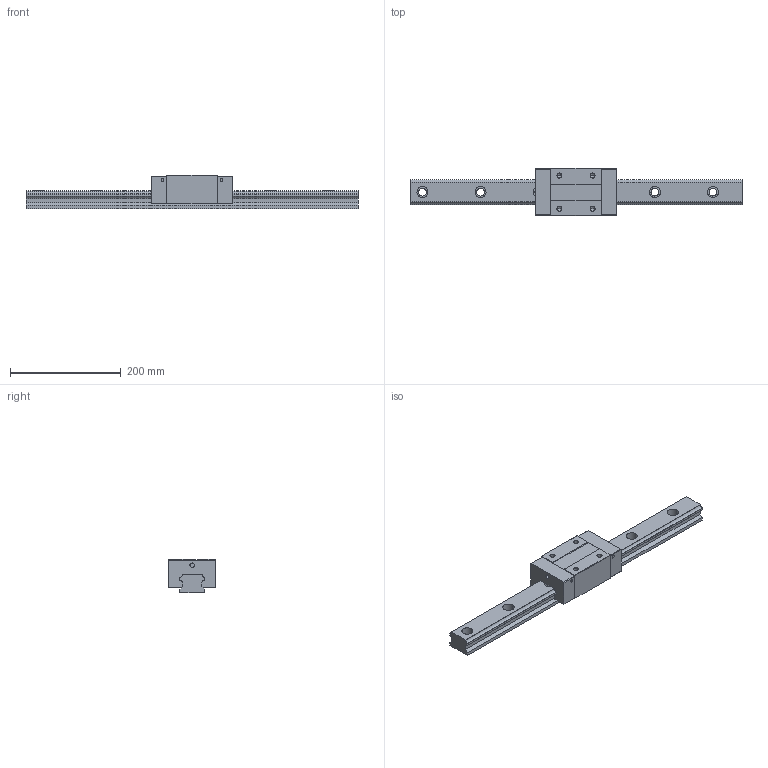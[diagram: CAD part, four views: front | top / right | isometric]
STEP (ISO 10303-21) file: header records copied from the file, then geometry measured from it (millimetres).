
FILE_DESCRIPTION (( 'STEP AP203' ), '1' );
FILE_NAME ('TRS45VN-WZ.STEP', '2024-06-12T07:27:25', ( '' ), ( '' ), 'SwSTEP 2.0', 'SolidWorks 2022', '' );
FILE_SCHEMA (( 'CONFIG_CONTROL_DESIGN' ));
Length unit declared in the file: millimetre
Products named in the file (1): TRS45VN-WZ
Bounding box: 600 x 85.5 x 60 mm (x, y, z)
Volume: 1204256 mm3; surface area: 163766.5 mm2
Topology: 2 solids, 2 shells, 180 faces, 472 edges, 304 vertices
Faces by surface type: plane 84, cylinder 80, cone 16
Entity records: 5607 total; most frequent: DIRECTION 994, CARTESIAN_POINT 949, ORIENTED_EDGE 928, EDGE_CURVE 464, AXIS2_PLACEMENT_3D 349, VERTEX_POINT 304, VECTOR 296, LINE 296
